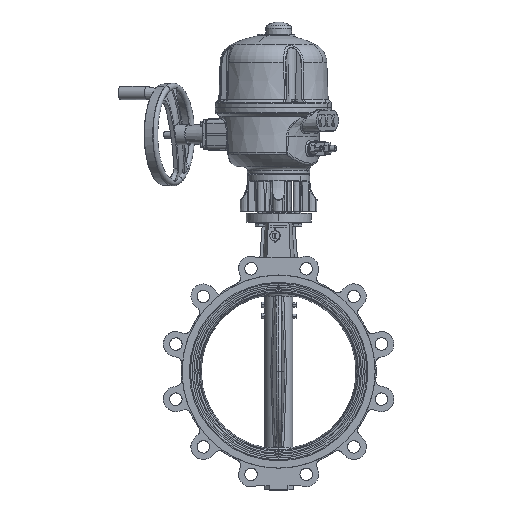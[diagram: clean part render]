
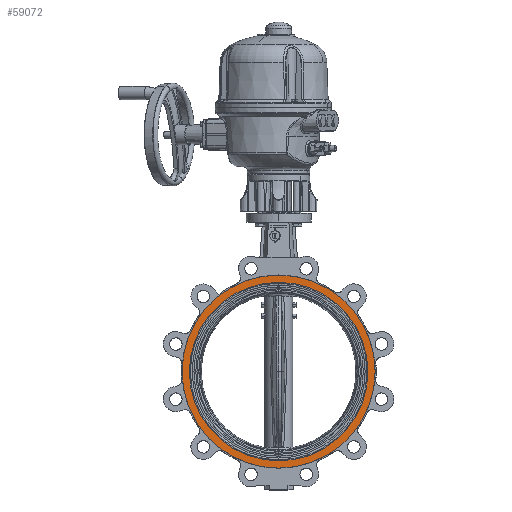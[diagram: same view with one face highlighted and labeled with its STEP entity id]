
A CAD part, top view. The second image highlights one B-rep face of the part: STEP entity #59072.
In plain terms, the highlighted planar face has unit normal (0, 0, 1).
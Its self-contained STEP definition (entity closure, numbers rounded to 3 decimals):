
#6806 = EDGE_CURVE ( 'NONE', #14009, #100645, #110653, .T. ) ;
#6837 = DIRECTION ( 'NONE',  ( 0., 0., 1. ) ) ;
#14009 = VERTEX_POINT ( 'NONE', #72748 ) ;
#15308 = EDGE_LOOP ( 'NONE', ( #112674, #65148 ) ) ;
#17635 = DIRECTION ( 'NONE',  ( 0., 0., -1. ) ) ;
#18964 = DIRECTION ( 'NONE',  ( 1., 0., 0. ) ) ;
#20537 = EDGE_CURVE ( 'NONE', #22995, #102347, #65434, .T. ) ;
#22995 = VERTEX_POINT ( 'NONE', #80203 ) ;
#23276 = EDGE_LOOP ( 'NONE', ( #36784, #103797 ) ) ;
#25789 = AXIS2_PLACEMENT_3D ( 'NONE', #91639, #111225, #83496 ) ;
#32206 = CIRCLE ( 'NONE', #104220, 186. ) ;
#32702 = CARTESIAN_POINT ( 'NONE',  ( 0., -186., 38.5 ) ) ;
#36784 = ORIENTED_EDGE ( 'NONE', *, *, #20537, .T. ) ;
#39391 = DIRECTION ( 'NONE',  ( 0., 1., 0. ) ) ;
#41456 = CARTESIAN_POINT ( 'NONE',  ( 0., 0., 38.5 ) ) ;
#50551 = AXIS2_PLACEMENT_3D ( 'NONE', #41456, #6837, #18964 ) ;
#51571 = CARTESIAN_POINT ( 'NONE',  ( 0., 0., 38.5 ) ) ;
#52728 = CARTESIAN_POINT ( 'NONE',  ( 0., 0., 38.5 ) ) ;
#53261 = CARTESIAN_POINT ( 'NONE',  ( 172., 0., 38.5 ) ) ;
#55559 = CARTESIAN_POINT ( 'NONE',  ( 0., 0., 38.5 ) ) ;
#57553 = EDGE_CURVE ( 'NONE', #100645, #14009, #65218, .T. ) ;
#59072 = ADVANCED_FACE ( 'NONE', ( #94646, #75585 ), #110852, .T. ) ;
#59679 = DIRECTION ( 'NONE',  ( 0., 0., 1. ) ) ;
#59698 = DIRECTION ( 'NONE',  ( 1., 0., 0. ) ) ;
#65148 = ORIENTED_EDGE ( 'NONE', *, *, #6806, .T. ) ;
#65218 = CIRCLE ( 'NONE', #70794, 172. ) ;
#65434 = CIRCLE ( 'NONE', #102412, 186. ) ;
#70794 = AXIS2_PLACEMENT_3D ( 'NONE', #52728, #17635, #59698 ) ;
#72748 = CARTESIAN_POINT ( 'NONE',  ( -172., 0., 38.5 ) ) ;
#75585 = FACE_OUTER_BOUND ( 'NONE', #23276, .T. ) ;
#80203 = CARTESIAN_POINT ( 'NONE',  ( 0., 186., 38.5 ) ) ;
#81667 = DIRECTION ( 'NONE',  ( 0., 0., 1. ) ) ;
#81766 = EDGE_CURVE ( 'NONE', #102347, #22995, #32206, .T. ) ;
#83496 = DIRECTION ( 'NONE',  ( 1., 0., 0. ) ) ;
#91639 = CARTESIAN_POINT ( 'NONE',  ( 0., 0., 38.5 ) ) ;
#94646 = FACE_BOUND ( 'NONE', #15308, .T. ) ;
#96164 = DIRECTION ( 'NONE',  ( 0., 1., 0. ) ) ;
#100645 = VERTEX_POINT ( 'NONE', #53261 ) ;
#102347 = VERTEX_POINT ( 'NONE', #32702 ) ;
#102412 = AXIS2_PLACEMENT_3D ( 'NONE', #51571, #59679, #96164 ) ;
#103797 = ORIENTED_EDGE ( 'NONE', *, *, #81766, .T. ) ;
#104220 = AXIS2_PLACEMENT_3D ( 'NONE', #55559, #81667, #39391 ) ;
#110653 = CIRCLE ( 'NONE', #25789, 172. ) ;
#110852 = PLANE ( 'NONE',  #50551 ) ;
#111225 = DIRECTION ( 'NONE',  ( 0., 0., -1. ) ) ;
#112674 = ORIENTED_EDGE ( 'NONE', *, *, #57553, .T. ) ;
